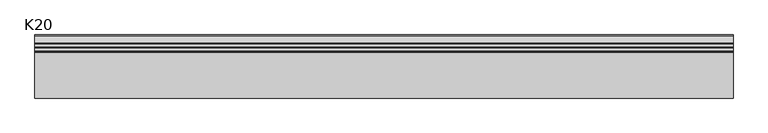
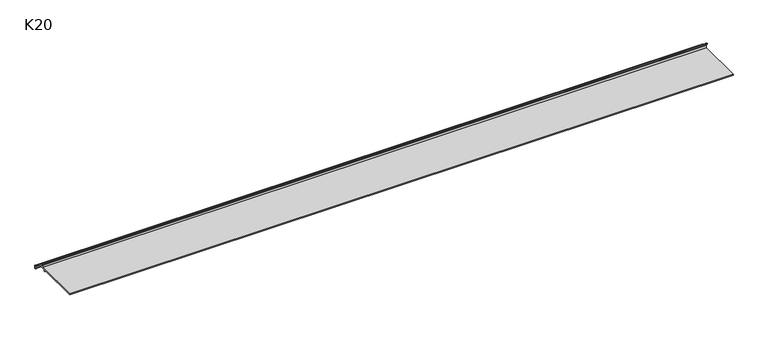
"""IFC4 building model written with IfcOpenShell, lengths in millimetres: proxy geometry, K20 Profil okapowy prosty : K20."""

from ifc_helpers import new_model, si_unit, frame, origin, place, context, project, spatial, polyline, circle_curve, source, transform, mapped, element, save
from ifc_brep_helpers import plane_surface, cylinder_surface, revolved_surface, advanced_brep


def k20_afda6247(model_context):
    return source(origin(), model_context, "Body", "AdvancedBrep", [
        advanced_brep(
        [(0.0, -87.4989572, -10.1021899), (0.0, 2.500569, -10.1021899), (0.0, 2.500569, -5.510882), (0.0, 2.4989019, -4.0499843), (0.0, 0.0197124, -1.5998786), (0.0, 0.0, 0.0), (0.0, 4.0266413, -4.0258099), (0.0, 4.1005689, -5.5101863), (0.0, 4.1008363, -8.0999212), (0.0, 6.0170507, -10.0981654), (0.0, 12.9833846, -10.3902613), (0.0, 14.6847117, -10.9920705), (0.0, 27.7470161, -20.8295524), (0.0, 28.9422346, -23.2256491), (0.0, 28.9426252, -27.0091483), (0.0, 27.2426253, -27.009236), (0.0, 27.2422707, -23.5751141), (0.0, 26.4454583, -21.9775098), (0.0, 13.7120428, -12.3877207), (0.0, 12.8739503, -12.0873026), (0.0, -2.8554668, -11.7961596), (0.0, -2.818506, -14.7959319), (0.0, -3.8184302, -14.8082521), (0.0, -3.8555414, -11.7962628), (0.0, -87.4989572, -11.7962628), (1287.1806309, -87.4989572, -10.1021899), (1287.1806309, -87.4989572, -11.7962628), (1287.1806309, -3.8555414, -11.7962628), (1287.1806309, -3.8184302, -14.8082521), (1287.1806309, -2.818506, -14.7959319), (1287.1806309, -2.8554668, -11.7961596), (1287.1806309, 12.8739503, -12.0873026), (1287.1806309, 13.7120428, -12.3877207), (1287.1806309, 26.4454583, -21.9775098), (1287.1806309, 27.2422707, -23.5751141), (1287.1806309, 27.2422707, -27.009236), (1287.1806309, 28.9426252, -27.0091483), (1287.1806309, 28.9426252, -23.2256491), (1287.1806309, 27.7470161, -20.8295524), (1287.1806309, 14.6847117, -10.9920705), (1287.1806309, 12.9833846, -10.3902613), (1287.1806309, 6.0170507, -10.0981654), (1287.1806309, 4.1008363, -8.0999212), (1287.1806309, 4.1008363, -5.5101863), (1287.1806309, 4.0266413, -4.0258099), (1287.1806309, 0.0, 0.0), (1287.1806309, 0.0197124, -1.5998786), (1287.1806309, 2.4989019, -4.0499843), (1287.1806309, 2.500569, -5.510882), (1287.1806309, 2.500569, -10.1021899)],
        [
            (0, 1),
            (1, 2),
            (2, 3, circle_curve(frame((0.0, -65.5675894, -4.8581062), z_axis=(1.0, 0.0, 0.0), x_axis=(0.0, 0.9999295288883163, 0.011871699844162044)), 68.0712884)),
            (3, 4, circle_curve(frame((0.0, -0.0325847, -4.1321586), z_axis=(1.0, 0.0, 0.0), x_axis=(0.0, 0.020647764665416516, 0.9997868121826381)), 2.53282)),
            (4, 5),
            (5, 6, circle_curve(frame((0.0, -0.4451419, -4.4718752), z_axis=(-1.0, 0.0, 0.0), x_axis=(0.0, 0.9950616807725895, 0.09925850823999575)), 4.4939759)),
            (6, 7, circle_curve(frame((0.0, -10.869654, -5.5117319), z_axis=(-1.0, 0.0, 0.0), x_axis=(0.0, 0.9999999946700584, 0.00010324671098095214)), 14.970223)),
            (7, 8),
            (8, 9, circle_curve(frame((0.0, 6.1008363, -8.0999212), z_axis=(1.0, 0.0, 0.0), x_axis=(0.0, -0.04189282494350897, -0.9991221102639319)), 2.0)),
            (9, 10),
            (10, 11, circle_curve(frame((0.0, 12.8799303, -13.388477), z_axis=(-1.0, 0.0, 0.0), x_axis=(0.0, 0.6015938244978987, 0.7988021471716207)), 3.0)),
            (11, 12),
            (12, 13, circle_curve(frame((0.0, 25.9422346, -23.2259588), z_axis=(-1.0, 0.0, 0.0), x_axis=(0.0, 0.9999999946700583, 0.00010324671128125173)), 3.0)),
            (13, 14),
            (14, 15, circle_curve(frame((0.0, 28.0926252, -27.0091483), z_axis=(-1.0, 0.0, 0.0), x_axis=(0.0, -0.9999999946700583, -0.0001032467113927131)), 0.85)),
            (15, 16),
            (16, 17, circle_curve(frame((0.0, 25.2422707, -23.5751141), z_axis=(1.0, 0.0, 0.0), x_axis=(0.0, 0.6015938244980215, 0.7988021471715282)), 2.0)),
            (17, 18),
            (18, 19, circle_curve(frame((0.0, 12.8482023, -13.4783781), z_axis=(1.0, 0.0, 0.0), x_axis=(0.0, 0.01850629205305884, 0.9998287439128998)), 1.3913138)),
            (19, 20),
            (20, 21),
            (21, 22),
            (22, 23),
            (23, 24),
            (24, 0),
            (25, 26),
            (26, 27),
            (27, 28),
            (28, 29),
            (29, 30),
            (30, 31),
            (31, 32, circle_curve(frame((1287.1806309, 12.8482023, -13.4783781), z_axis=(-1.0, 0.0, 0.0), x_axis=(0.0, 0.01850629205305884, 0.9998287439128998)), 1.3913138)),
            (32, 33),
            (33, 34, circle_curve(frame((1287.1806309, 25.2422707, -23.5751141), z_axis=(-1.0, 0.0, 0.0), x_axis=(0.0, 0.6015938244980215, 0.7988021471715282)), 2.0)),
            (34, 35),
            (35, 36, circle_curve(frame((1287.1806309, 28.0926252, -27.0091483), z_axis=(1.0, 0.0, 0.0), x_axis=(0.0, -0.9999999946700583, -0.0001032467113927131)), 0.85)),
            (36, 37),
            (37, 38, circle_curve(frame((1287.1806309, 25.9422346, -23.2259588), z_axis=(1.0, 0.0, 0.0), x_axis=(0.0, 0.9999999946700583, 0.00010324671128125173)), 3.0)),
            (38, 39),
            (39, 40, circle_curve(frame((1287.1806309, 12.8799303, -13.388477), z_axis=(1.0, 0.0, 0.0), x_axis=(0.0, 0.6015938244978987, 0.7988021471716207)), 3.0)),
            (40, 41),
            (41, 42, circle_curve(frame((1287.1806309, 6.1008363, -8.0999212), z_axis=(-1.0, 0.0, 0.0), x_axis=(0.0, -0.04189282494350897, -0.9991221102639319)), 2.0)),
            (42, 43),
            (43, 44, circle_curve(frame((1287.1806309, -10.869654, -5.5117319), z_axis=(1.0, 0.0, 0.0), x_axis=(0.0, 0.9999999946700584, 0.00010324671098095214)), 14.970223)),
            (44, 45, circle_curve(frame((1287.1806309, -0.4451419, -4.4718752), z_axis=(1.0, 0.0, 0.0), x_axis=(0.0, 0.9950616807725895, 0.09925850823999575)), 4.4939759)),
            (45, 46),
            (46, 47, circle_curve(frame((1287.1806309, -0.0325847, -4.1321586), z_axis=(-1.0, 0.0, 0.0), x_axis=(0.0, 0.020647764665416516, 0.9997868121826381)), 2.53282)),
            (47, 48, circle_curve(frame((1287.1806309, -65.5675894, -4.8581062), z_axis=(-1.0, 0.0, 0.0), x_axis=(0.0, 0.9999295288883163, 0.011871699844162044)), 68.0712884)),
            (48, 49),
            (49, 25),
            (7, 43),
            (42, 8),
            (6, 44),
            (5, 45),
            (4, 46),
            (3, 47),
            (2, 48),
            (1, 49),
            (41, 9),
            (24, 26),
            (25, 0),
            (23, 27),
            (22, 28),
            (21, 29),
            (20, 30),
            (19, 31),
            (18, 32),
            (17, 33),
            (16, 34),
            (15, 35),
            (14, 36),
            (13, 37),
            (12, 38),
            (11, 39),
            (10, 40),
        ],
        [
            plane_surface(frame((0.0, 0.0, 0.0), z_axis=(-1.0, 0.0, 0.0), x_axis=(0.0, 0.0, 1.0))),
            plane_surface(frame((1287.1806309, 0.0, 0.0), z_axis=(1.0, 0.0, 0.0), x_axis=(0.0, 0.0, 1.0))),
            plane_surface(frame((0.0, 4.1008363, -8.0999212), z_axis=(0.0, 1.0, 0.0), x_axis=(1.0, 0.0, 0.0))),
            cylinder_surface(frame((0.0, -10.869654, -5.5117319), z_axis=(-1.0000000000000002, 0.0, 0.0), x_axis=(0.0, 0.9999999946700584, 0.00010324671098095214)), 14.970223),
            cylinder_surface(frame((0.0, -0.4451419, -4.4718752), z_axis=(-1.0000000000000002, 0.0, 0.0), x_axis=(0.0, 0.9950616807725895, 0.09925850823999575)), 4.4939759),
            plane_surface(frame((0.0, 0.0, 0.0), z_axis=(0.0, -0.9999241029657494, -0.012320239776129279), x_axis=(1.0, 0.0, 0.0))),
            revolved_surface(polyline([(1287.1806309, 0.01971237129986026, -1.599878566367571), (0.0, 0.01971237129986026, -1.599878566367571)]), (0.0, -0.0325847, -4.1321586), (1.0, 0.0, 0.0)),
            revolved_surface(polyline([(1287.1806309, 2.498901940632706, -4.049984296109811), (0.0, 2.498901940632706, -4.049984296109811)]), (0.0, -65.5675894, -4.8581062), (1.0, 0.0, 0.0)),
            plane_surface(frame((0.0, 2.500569, -5.510882), z_axis=(0.0, -1.0, 0.0), x_axis=(1.0, 0.0, 0.0))),
            revolved_surface(polyline([(1287.1806309, 6.017050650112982, -10.098165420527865), (0.0, 6.017050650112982, -10.098165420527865)]), (0.0, 6.1008363, -8.0999212), (1.0, 0.0, 0.0)),
            plane_surface(frame((0.0, -87.4989572, -10.1021899), z_axis=(0.0, -1.0, 0.0), x_axis=(1.0, 0.0, 0.0))),
            plane_surface(frame((0.0, -87.4989572, -11.7962628), z_axis=(0.0, 0.0, -1.0), x_axis=(1.0, 0.0, 0.0))),
            plane_surface(frame((0.0, -3.8555414, -11.7962628), z_axis=(0.0, -0.9999241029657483, -0.012320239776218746), x_axis=(1.0, 0.0, 0.0))),
            plane_surface(frame((0.0, -3.8184302, -14.8082521), z_axis=(0.0, 0.01232023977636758, -0.9999241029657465), x_axis=(1.0, 0.0, 0.0))),
            plane_surface(frame((0.0, -2.818506, -14.7959319), z_axis=(0.0, 0.9999241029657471, 0.012320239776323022), x_axis=(1.0, 0.0, 0.0))),
            plane_surface(frame((0.0, -2.8554668, -11.7961596), z_axis=(0.0, -0.01850629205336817, -0.999828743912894), x_axis=(1.0, 0.0, 0.0))),
            revolved_surface(polyline([(1287.1806309, 12.873950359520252, -12.087302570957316), (0.0, 12.873950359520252, -12.087302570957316)]), (0.0, 12.8482023, -13.4783781), (1.0, 0.0, 0.0)),
            plane_surface(frame((0.0, 13.7120428, -12.3877207), z_axis=(0.0, -0.6015938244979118, -0.7988021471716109), x_axis=(1.0, 0.0, 0.0))),
            revolved_surface(polyline([(1287.1806309, 26.44545834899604, -21.977509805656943), (0.0, 26.44545834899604, -21.977509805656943)]), (0.0, 25.2422707, -23.5751141), (1.0, 0.0, 0.0)),
            plane_surface(frame((0.0, 27.2422707, -23.5751141), z_axis=(0.0, -1.0, 0.0), x_axis=(1.0, 0.0, 0.0))),
            cylinder_surface(frame((0.0, 28.0926252, -27.0091483), z_axis=(-1.0, 0.0, 0.0), x_axis=(0.0, -0.9999999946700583, -0.0001032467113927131)), 0.85),
            plane_surface(frame((0.0, 28.9426252, -27.0091483), z_axis=(0.0, 1.0, 0.0), x_axis=(1.0, 0.0, 0.0))),
            cylinder_surface(frame((0.0, 25.9422346, -23.2259588), z_axis=(-1.0, 0.0, 0.0), x_axis=(0.0, 0.9999999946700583, 0.00010324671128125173)), 3.0),
            plane_surface(frame((0.0, 27.7470161, -20.8295524), z_axis=(0.0, 0.6015938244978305, 0.798802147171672), x_axis=(1.0, 0.0, 0.0))),
            cylinder_surface(frame((0.0, 12.8799303, -13.388477), z_axis=(-1.0, 0.0, 0.0), x_axis=(0.0, 0.6015938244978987, 0.7988021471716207)), 3.0),
            plane_surface(frame((0.0, 12.9833846, -10.3902613), z_axis=(0.0, 0.04189282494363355, 0.9991221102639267), x_axis=(1.0, 0.0, 0.0))),
            plane_surface(frame((0.0, 2.500569, -10.1021899), z_axis=(0.0, 0.0, 1.0), x_axis=(1.0, 0.0, 0.0))),
        ],
        [
            (0, [[1, 2, 3, 4, 5, 6, 7, 8, 9, 10, 11, 12, 13, 14, 15, 16, 17, 18, 19, 20, 21, 22, 23, 24, 25]]),
            (1, [[26, 27, 28, 29, 30, 31, 32, 33, 34, 35, 36, 37, 38, 39, 40, 41, 42, 43, 44, 45, 46, 47, 48, 49, 50]]),
            (2, [[51, -43, 52, -8]]),
            (3, [[53, -44, -51, -7]]),
            (4, [[54, -45, -53, -6]]),
            (5, [[55, -46, -54, -5]]),
            (6, [[56, -47, -55, -4]]),
            (7, [[57, -48, -56, -3]]),
            (8, [[58, -49, -57, -2]]),
            (9, [[-52, -42, 59, -9]]),
            (10, [[60, -26, 61, -25]]),
            (11, [[62, -27, -60, -24]]),
            (12, [[63, -28, -62, -23]]),
            (13, [[64, -29, -63, -22]]),
            (14, [[65, -30, -64, -21]]),
            (15, [[66, -31, -65, -20]]),
            (16, [[67, -32, -66, -19]]),
            (17, [[68, -33, -67, -18]]),
            (18, [[69, -34, -68, -17]]),
            (19, [[70, -35, -69, -16]]),
            (20, [[71, -36, -70, -15]]),
            (21, [[72, -37, -71, -14]]),
            (22, [[73, -38, -72, -13]]),
            (23, [[74, -39, -73, -12]]),
            (24, [[75, -40, -74, -11]]),
            (25, [[-59, -41, -75, -10]]),
            (26, [[-61, -50, -58, -1]]),
        ],
    ),
    ])


if __name__ == "__main__":
    model = new_model("IFC4")
    model_context = context("Model", 3, world=origin())
    ifc_project = project(units=[si_unit("LENGTHUNIT", "METRE", prefix="MILLI")], contexts=[model_context])
    site = spatial("IfcSite", under=ifc_project)
    building = spatial("IfcBuilding", under=site)
    placement = place(None, origin())
    k20_shape = k20_afda6247(model_context)
    element("IfcBuildingElementProxy", 1, Name="K20 Profil okapowy prosty : K20", ObjectType="K20 Profil okapowy prosty : K20", at=placement, inside=building, context=model_context, shape_type="MappedRepresentation", body=[
        mapped(k20_shape, transform((0.0, 0.0, 0.0), x_axis=(1.0, 0.0, 0.0), y_axis=(0.0, 1.0, 0.0), z_axis=(0.0, 0.0, 1.0))),
    ])
    save(model, "model.ifc")
